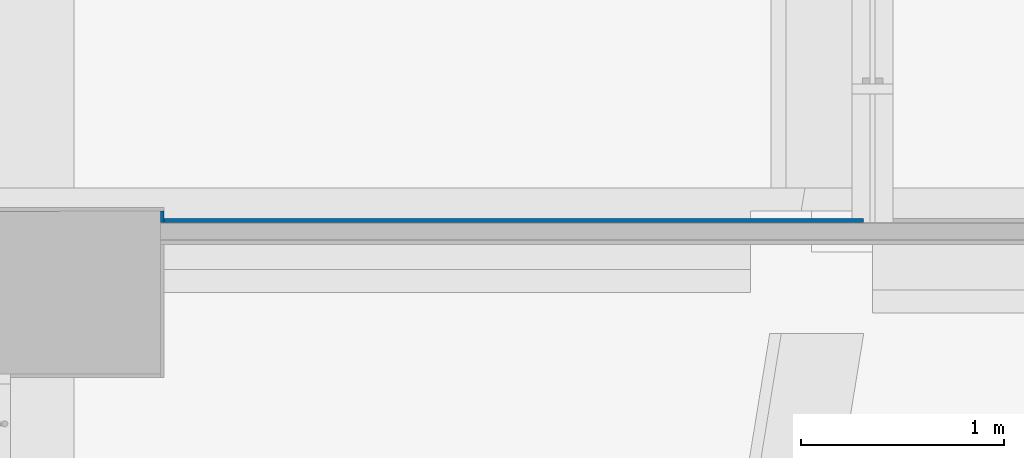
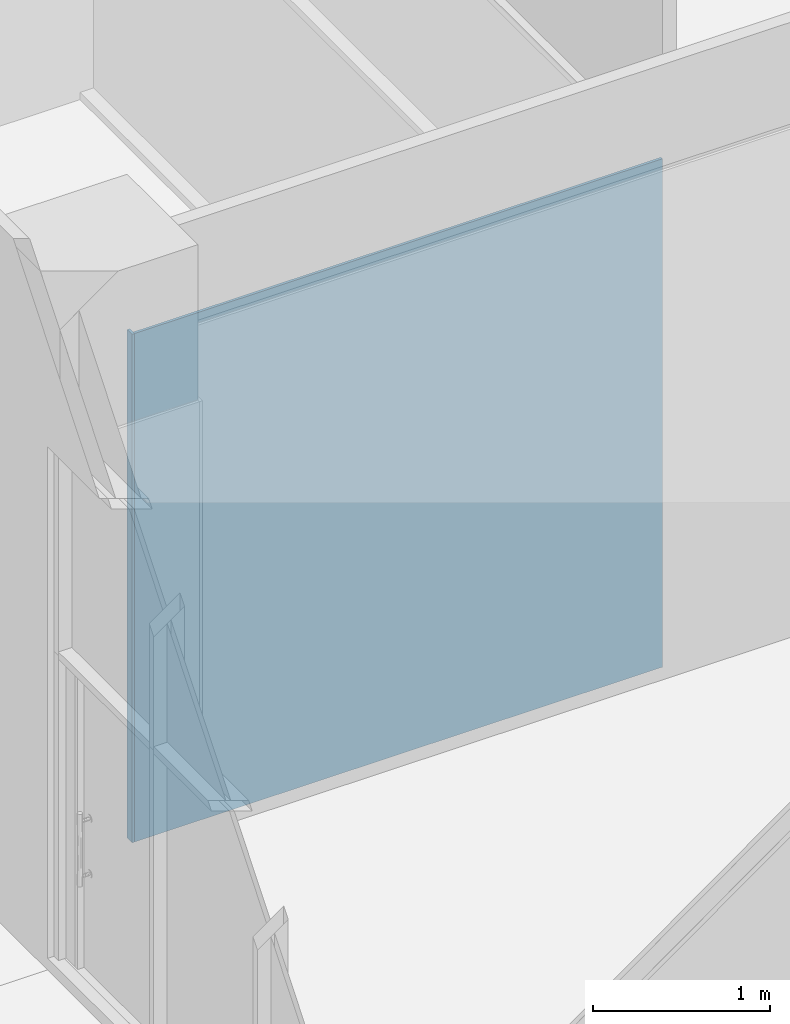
# One storey, part 33 of 100: 2 walls.
"""IFC2X3 building model written with IfcOpenShell, lengths in millimetres."""

import ifcopenshell
import ifcopenshell.guid

model = None  # the IFC model being written
_history = None  # IfcOwnerHistory: only IFC2X3 demands one
_inside = {}  # id of a spatial element -> (the spatial element, [elements in it])
_under = {}  # id of a project, library or spatial element -> (it, [spatial elements below it])
_declared = {}  # id of a project -> (the project, [libraries it declares])
_typed = {}  # id of a type object -> (the type object, [elements of that type])
_made_of = {}  # id of a material, layer set ... -> (it, [elements and type objects made of it])


def new_model(schema):
    """Start an empty IFC model of exactly this schema.

    Asked for "IFC4X3", IfcOpenShell would pick the latest addendum, in which some entities
    have other attributes; the version numbers below select the first issue.
    IFC2X3 requires an IfcOwnerHistory on every rooted entity: one is made here for all.
    """
    global model, _history
    if schema == "IFC4X3":
        model = ifcopenshell.file(schema_version=(4, 3, 0, 0))
    else:
        model = ifcopenshell.file(schema=schema)
    _inside.clear()
    _under.clear()
    _declared.clear()
    _typed.clear()
    _made_of.clear()
    _history = None
    if model.schema == "IFC2X3":
        org = make("IfcOrganization", Name="unknown")
        user = make(
            "IfcPersonAndOrganization",
            ThePerson=make("IfcPerson", FamilyName="unknown"),
            TheOrganization=org,
        )
        app = make(
            "IfcApplication",
            ApplicationDeveloper=org,
            Version="unknown",
            ApplicationFullName="unknown",
            ApplicationIdentifier="unknown",
        )
        _history = make(
            "IfcOwnerHistory",
            OwningUser=user,
            OwningApplication=app,
            ChangeAction="ADDED",
            CreationDate=0,
        )
    return model


def make(cls, **values):
    """One entity of the class cls with the attributes given. An attribute that is None is left unset."""
    return model.create_entity(
        cls, **{name: value for name, value in values.items() if value is not None}
    )


def entity(cls, *values):
    """Any entity or typed value of the class cls, its attributes in the order of the schema. None: left unset."""
    e = model.create_entity(cls)
    for i, value in enumerate(values):
        if value is not None:
            e[i] = value
    return e


def rooted(cls, **values):
    """An entity with a GlobalId (a new one), such as an element, a storey or a relation."""
    return make(cls, GlobalId=ifcopenshell.guid.new(), OwnerHistory=_history, **values)


def si_unit(unit_type, name, prefix=None):
    """IfcSIUnit, for example si_unit("LENGTHUNIT", "METRE", prefix="MILLI")."""
    return make("IfcSIUnit", UnitType=unit_type, Prefix=prefix, Name=name)


def converted_unit(unit_type, name, factor, base, dimensions=None, offset=None):
    """IfcConversionBasedUnit, such as the inch: factor (a typed value) times the base unit."""
    return make(
        "IfcConversionBasedUnit"
        if offset is None
        else "IfcConversionBasedUnitWithOffset",
        ConversionOffset=offset,
        Dimensions=None
        if dimensions is None
        else entity("IfcDimensionalExponents", *dimensions),
        UnitType=unit_type,
        Name=name,
        ConversionFactor=make(
            "IfcMeasureWithUnit", ValueComponent=factor, UnitComponent=base
        ),
    )


def derived_unit(unit_type, elements):
    """IfcDerivedUnit: a product of units, each with its exponent."""
    return make(
        "IfcDerivedUnit",
        Elements=[
            make("IfcDerivedUnitElement", Unit=unit, Exponent=power)
            for unit, power in elements
        ],
        UnitType=unit_type,
    )


def assignment(units):
    """IfcUnitAssignment: the units of a project."""
    return None if units is None else make("IfcUnitAssignment", Units=units)


def point(xyz):
    """IfcCartesianPoint."""
    return None if xyz is None else make("IfcCartesianPoint", Coordinates=xyz)


def direction(xyz):
    """IfcDirection."""
    return None if xyz is None else make("IfcDirection", DirectionRatios=xyz)


def frame(location, z_axis=None, x_axis=None):
    """IfcAxis2Placement3D, a coordinate frame: its origin and axes. An axis left out is left unset."""
    return make(
        "IfcAxis2Placement3D",
        Location=point(location),
        Axis=direction(z_axis),
        RefDirection=direction(x_axis),
    )


def frame_2d(location, x_axis=None):
    """IfcAxis2Placement2D, a coordinate frame in the plane: its origin and x axis."""
    return make(
        "IfcAxis2Placement2D", Location=point(location), RefDirection=direction(x_axis)
    )


def origin():
    """The frame at (0, 0, 0) with its axes left unset."""
    return frame((0.0, 0.0, 0.0))


def place(relative_to, where):
    """IfcLocalPlacement: puts the frame where relative to a parent placement (None: the world)."""
    return make(
        "IfcLocalPlacement", PlacementRelTo=relative_to, RelativePlacement=where
    )


def context(
    kind, dimensions, precision=None, world=None, true_north=None, identifier=None
):
    """IfcGeometricRepresentationContext, for example the 3D "Model" context."""
    return make(
        "IfcGeometricRepresentationContext",
        ContextIdentifier=identifier,
        ContextType=kind,
        CoordinateSpaceDimension=dimensions,
        Precision=precision,
        WorldCoordinateSystem=world,
        TrueNorth=true_north,
    )


def subcontext(parent, identifier, kind, view, scale=None):
    """IfcGeometricRepresentationSubContext, for example "Body" below "Model"."""
    return make(
        "IfcGeometricRepresentationSubContext",
        ContextIdentifier=identifier,
        ContextType=kind,
        ParentContext=parent,
        TargetScale=scale,
        TargetView=view,
    )


def project(units=None, contexts=None):
    """IfcProject with its units and contexts."""
    return rooted(
        "IfcProject",
        Name="project",
        RepresentationContexts=contexts,
        UnitsInContext=assignment(units),
    )


def spatial(cls, under=None, at=None, **own):
    """A site, building, storey or space (cls), placed at a placement, below another one or the project."""
    s = rooted(cls, ObjectPlacement=at, **own)
    if under is not None:
        _under.setdefault(under.id(), (under, []))[1].append(s)
    return s


def profile(cls, at=None, kind="AREA", **sizes):
    """A parametric profile (cls). Its sizes go by their IFC names, for example OverallWidth=200.0."""
    return make(cls, ProfileType=kind, Position=at, **sizes)


def rectangle(**sizes):
    """IfcRectangleProfileDef."""
    return profile("IfcRectangleProfileDef", **sizes)


def extrude(swept, where, along, depth):
    """IfcExtrudedAreaSolid: the profile swept, set in the frame where, extruded along a direction by depth."""
    return make(
        "IfcExtrudedAreaSolid",
        SweptArea=swept,
        Position=where,
        ExtrudedDirection=direction(along),
        Depth=depth,
    )


def shape(context_of_items, identifier, shape_type, items):
    """IfcShapeRepresentation: the items that make up one representation, for example the "Body"."""
    return make(
        "IfcShapeRepresentation",
        ContextOfItems=context_of_items,
        RepresentationIdentifier=identifier,
        RepresentationType=shape_type,
        Items=items,
    )


def material(Name=None, Category=None):
    """IfcMaterial."""
    return make("IfcMaterial", Name=Name, Category=Category)


def layer(
    of_material, thickness, ventilated=None, Name=None, Category=None, Priority=None
):
    """IfcMaterialLayer: one layer of a wall or slab, of a material (None: an air gap)."""
    return make(
        "IfcMaterialLayer",
        Material=of_material,
        LayerThickness=thickness,
        IsVentilated=ventilated,
        Name=Name,
        Category=Category,
        Priority=Priority,
    )


def layer_set(layers, Name=None):
    """IfcMaterialLayerSet."""
    return make("IfcMaterialLayerSet", MaterialLayers=layers, LayerSetName=Name)


def layer_usage(for_layer_set, set_direction, sense, offset, extent=None):
    """IfcMaterialLayerSetUsage: how a layer set lies in its element."""
    return make(
        "IfcMaterialLayerSetUsage",
        ForLayerSet=for_layer_set,
        LayerSetDirection=set_direction,
        DirectionSense=sense,
        OffsetFromReferenceLine=offset,
        ReferenceExtent=extent,
    )


def made_of(thing, what):
    """Note that an element or type object is made of a material, layer set ...; save() writes the relation."""
    if what is not None:
        _made_of.setdefault(what.id(), (what, []))[1].append(thing)
    return thing


def type_object(cls, material=None, **own):
    """A type object (cls), such as IfcWallType, which elements share."""
    return made_of(rooted(cls, **own), material)


def element(
    cls,
    number,
    at=None,
    inside=None,
    cuts=None,
    type_object=None,
    material=None,
    context=None,
    identifier="Body",
    shape_type=None,
    held_by="IfcProductDefinitionShape",
    body=None,
    shapes=None,
    **own,
):
    """One element of the class cls, such as IfcWall. Its Tag is "e" and its number.

    at: its placement. inside: the storey or other place that contains it. cuts: it is an
    opening in that element (IfcRelVoidsElement). A single representation is given by context,
    identifier, shape_type and body (its items); several are given by shapes. held_by: the class
    of the entity that holds the representations. save() writes the other relations.
    """
    e = rooted(cls, Tag="e%d" % number, ObjectPlacement=at, **own)
    if body is not None:
        shapes = [shape(context, identifier, shape_type, body)]
    if shapes is not None:
        e.Representation = make(held_by, Representations=shapes)
    if inside is not None:
        _inside.setdefault(inside.id(), (inside, []))[1].append(e)
    if cuts is not None:
        rooted(
            "IfcRelVoidsElement", RelatingBuildingElement=cuts, RelatedOpeningElement=e
        )
    if type_object is not None:
        _typed.setdefault(type_object.id(), (type_object, []))[1].append(e)
    return made_of(e, material)


def aggregate(whole, parts):
    """IfcRelAggregates: a whole, such as a stair, and the parts it consists of."""
    return rooted("IfcRelAggregates", RelatingObject=whole, RelatedObjects=parts)


def save(model, path):
    """Write the relations noted so far, then the file.

    IfcRelAggregates (storeys below a building ...), IfcRelContainedInSpatialStructure (elements
    in a storey), IfcRelDefinesByType, IfcRelAssociatesMaterial and IfcRelDeclares: one each for
    every whole, place, type object, material and project.
    """
    for whole, parts in _under.values():
        aggregate(whole, parts)
    for where, things in _inside.values():
        rooted(
            "IfcRelContainedInSpatialStructure",
            RelatedElements=things,
            RelatingStructure=where,
        )
    for kind, things in _typed.values():
        rooted("IfcRelDefinesByType", RelatedObjects=things, RelatingType=kind)
    for what, things in _made_of.values():
        rooted("IfcRelAssociatesMaterial", RelatedObjects=things, RelatingMaterial=what)
    for by, libraries in _declared.values():
        rooted("IfcRelDeclares", RelatingContext=by, RelatedDefinitions=libraries)
    model.write(path)


model = new_model("IFC2X3")

# Units and contexts
model_context = context("Model", 3, precision=0.01, world=origin(), true_north=direction((6.123031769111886e-17, 1.0)))
body_context = subcontext(model_context, "Body", "Model", "MODEL_VIEW")
ifc_project = project(units=[si_unit("LENGTHUNIT", "METRE", prefix="MILLI"), si_unit("AREAUNIT", "SQUARE_METRE"), si_unit("VOLUMEUNIT", "CUBIC_METRE"), converted_unit("PLANEANGLEUNIT", "DEGREE", entity("IfcRatioMeasure", 0.017453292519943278), si_unit("PLANEANGLEUNIT", "RADIAN"), dimensions=[0, 0, 0, 0, 0, 0, 0]), si_unit("MASSUNIT", "GRAM", prefix="KILO"), derived_unit("MASSDENSITYUNIT", [(si_unit("MASSUNIT", "GRAM", prefix="KILO"), 1), (si_unit("LENGTHUNIT", "METRE"), -3)]), derived_unit("MOMENTOFINERTIAUNIT", [(si_unit("LENGTHUNIT", "METRE"), 4)]), si_unit("TIMEUNIT", "SECOND"), si_unit("FREQUENCYUNIT", "HERTZ"), si_unit("THERMODYNAMICTEMPERATUREUNIT", "DEGREE_CELSIUS"), derived_unit("THERMALTRANSMITTANCEUNIT", [(si_unit("MASSUNIT", "GRAM", prefix="KILO"), 1), (si_unit("THERMODYNAMICTEMPERATUREUNIT", "KELVIN"), -1), (si_unit("TIMEUNIT", "SECOND"), -3)]), derived_unit("VOLUMETRICFLOWRATEUNIT", [(si_unit("LENGTHUNIT", "METRE"), 3), (si_unit("TIMEUNIT", "SECOND"), -1)]), derived_unit("MASSFLOWRATEUNIT", [(si_unit("MASSUNIT", "GRAM", prefix="KILO"), 1), (si_unit("TIMEUNIT", "SECOND"), -1)]), derived_unit("ROTATIONALFREQUENCYUNIT", [(si_unit("TIMEUNIT", "SECOND"), -1)]), si_unit("ELECTRICCURRENTUNIT", "AMPERE"), si_unit("ELECTRICVOLTAGEUNIT", "VOLT"), si_unit("POWERUNIT", "WATT"), si_unit("FORCEUNIT", "NEWTON", prefix="KILO"), si_unit("ILLUMINANCEUNIT", "LUX"), si_unit("LUMINOUSFLUXUNIT", "LUMEN"), si_unit("LUMINOUSINTENSITYUNIT", "CANDELA"), derived_unit("USERDEFINED", [(si_unit("MASSUNIT", "GRAM", prefix="KILO"), -1), (si_unit("LENGTHUNIT", "METRE"), -2), (si_unit("TIMEUNIT", "SECOND"), 3), (si_unit("LUMINOUSFLUXUNIT", "LUMEN"), 1)]), derived_unit("SOUNDPOWERUNIT", [(si_unit("MASSUNIT", "GRAM", prefix="KILO"), 1), (si_unit("LENGTHUNIT", "METRE"), 2), (si_unit("TIMEUNIT", "SECOND"), -3)]), derived_unit("SOUNDPRESSUREUNIT", [(si_unit("MASSUNIT", "GRAM", prefix="KILO"), 1), (si_unit("LENGTHUNIT", "METRE"), -1), (si_unit("TIMEUNIT", "SECOND"), -2)]), derived_unit("LINEARVELOCITYUNIT", [(si_unit("LENGTHUNIT", "METRE"), 1), (si_unit("TIMEUNIT", "SECOND"), -1)]), si_unit("PRESSUREUNIT", "PASCAL"), derived_unit("USERDEFINED", [(si_unit("LENGTHUNIT", "METRE"), -2), (si_unit("MASSUNIT", "GRAM", prefix="KILO"), 1), (si_unit("TIMEUNIT", "SECOND"), -2)]), derived_unit("LINEARFORCEUNIT", [(si_unit("MASSUNIT", "GRAM", prefix="KILO"), 1), (si_unit("LENGTHUNIT", "METRE"), 1), (si_unit("TIMEUNIT", "SECOND"), -2), (si_unit("LENGTHUNIT", "METRE"), -1)]), derived_unit("PLANARFORCEUNIT", [(si_unit("MASSUNIT", "GRAM", prefix="KILO"), 1), (si_unit("LENGTHUNIT", "METRE"), 1), (si_unit("TIMEUNIT", "SECOND"), -2), (si_unit("LENGTHUNIT", "METRE"), -2)])], contexts=[model_context])

# Site, building, storey
site_placement = place(None, frame((-14167.972527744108, -657.2125860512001, 0.0)))
site = spatial("IfcSite", under=ifc_project, at=site_placement, Name="Default", CompositionType="ELEMENT")
building_placement = place(site_placement, origin())
building = spatial("IfcBuilding", under=site, at=building_placement, Name="Sample Building", CompositionType="ELEMENT")
storey_placement = place(building_placement, origin())
storey = spatial("IfcBuildingStorey", under=building, at=storey_placement, Name="지상 1층", CompositionType="ELEMENT", Elevation=0.0)

# Walls
ifc_material_1 = material(Name="WA611-수성페인트 (내부) 벽 (3회)")
ifc_layer_1 = layer(ifc_material_1, 1.0)
ifc_material_2 = material(Name="WA551-시멘트모르타르 (내부) 벽 18mm")
ifc_layer_2 = layer(ifc_material_2, 16.0)
ifc_material_3 = material(Name="WA555-콘크리트면정리 벽 (내부)")
ifc_layer_3 = layer(ifc_material_3, 1.0)
ifc_layer_set = layer_set([ifc_layer_1, ifc_layer_2, ifc_layer_3], Name="기본 벽:A1-32-06A-콘크리트면정리, 시멘트모르타르(미장용), 수성페인트(내부) (18mm)")
ifc_layer_usage_1 = layer_usage(ifc_layer_set, "AXIS2", "NEGATIVE", 9.000000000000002)
wall_type = type_object("IfcWallType", Name="기본 벽:A1-32-06A-콘크리트면정리, 시멘트모르타르(미장용), 수성페인트(내부) (18mm)", PredefinedType="STANDARD", material=ifc_layer_set)
wall_1_placement = place(storey_placement, frame((14976.972454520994, 13057.19489124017, 80.0), z_axis=(0.0, 0.0, 1.0), x_axis=(0.0, -1.0, 0.0)))
element("IfcWallStandardCase", 1, at=wall_1_placement, inside=storey, type_object=wall_type, material=ifc_layer_usage_1, Name="기본 벽:A1-32-06A-콘크리트면정리, 시멘트모르타르(미장용), 수성페인트(내부) (18mm)", ObjectType="기본 벽:A1-32-06A-콘크리트면정리, 시멘트모르타르(미장용), 수성페인트(내부) (18mm)", context=body_context, shape_type="SweptSolid", body=[
    extrude(rectangle(XDim=54.98230518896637, YDim=18.00000000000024, at=frame_2d((27.491152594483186, 8.348877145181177e-14), x_axis=(-1.0, 0.0))), origin(), (0.0, 0.0, 1.0), 3500.0000000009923),
])
ifc_layer_usage_2 = layer_usage(ifc_layer_set, "AXIS2", "POSITIVE", -9.000000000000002)
wall_2_placement = place(storey_placement, frame((18422.963798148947, 13011.212586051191, 80.0), z_axis=(0.0, 0.0, 1.0), x_axis=(-1.0, 0.0, 0.0)))
element("IfcWallStandardCase", 2, at=wall_2_placement, inside=storey, type_object=wall_type, material=ifc_layer_usage_2, Name="기본 벽:A1-32-06A-콘크리트면정리, 시멘트모르타르(미장용), 수성페인트(내부) (18mm)", ObjectType="기본 벽:A1-32-06A-콘크리트면정리, 시멘트모르타르(미장용), 수성페인트(내부) (18mm)", context=body_context, shape_type="SweptSolid", body=[
    extrude(rectangle(XDim=3436.991343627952, YDim=18.000000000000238, at=frame_2d((1718.495671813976, -1.4210854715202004e-14), x_axis=(-1.0, 0.0))), origin(), (0.0, 0.0, 1.0), 3500.0000000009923),
])

save(model, "model.ifc")
